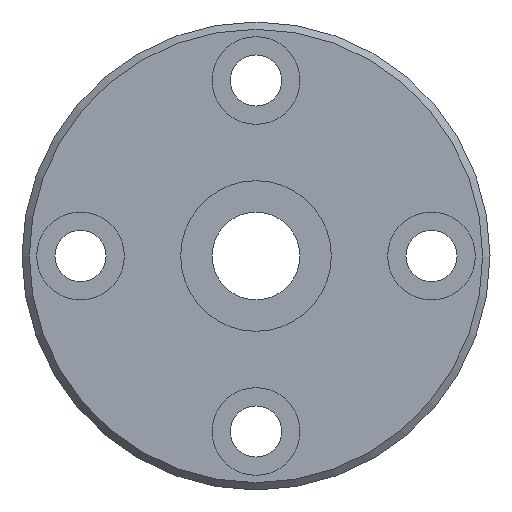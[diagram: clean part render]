
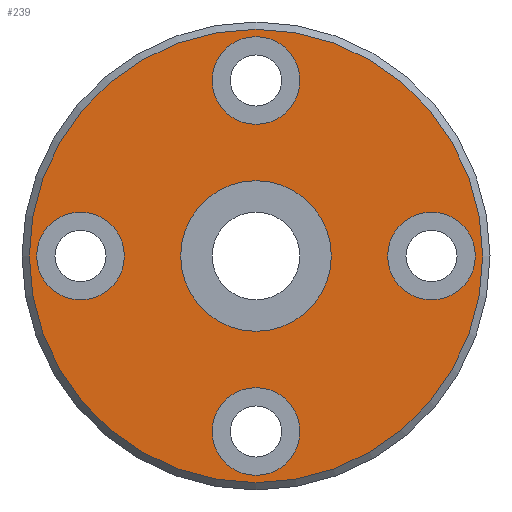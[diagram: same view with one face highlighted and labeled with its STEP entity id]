
A CAD part, left-side view. The second image highlights one B-rep face of the part: STEP entity #239.
In plain terms, the highlighted planar face has unit normal (-1, 0, 0).
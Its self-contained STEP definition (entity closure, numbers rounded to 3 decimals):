
#164=CARTESIAN_POINT('',(0.0,0.,15.5));
#165=VERTEX_POINT('',#164);
#166=CARTESIAN_POINT('',(0.0,0.0,0.0));
#167=DIRECTION('',(1.0,0.0,0.0));
#168=DIRECTION('',(0.0,0.0,-1.0));
#169=AXIS2_PLACEMENT_3D('',#166,#167,#168);
#170=CIRCLE('',#169,15.5);
#171=EDGE_CURVE('',#165,#165,#170,.T.);
#176=CARTESIAN_POINT('',(0.0,0.0,6.325));
#177=DIRECTION('',(-1.0,0.0,0.0));
#178=DIRECTION('',(0.0,0.0,1.0));
#179=AXIS2_PLACEMENT_3D('',#176,#177,#178);
#180=PLANE('',#179);
#181=ORIENTED_EDGE('',*,*,#171,.F.);
#182=EDGE_LOOP('',(#181));
#183=FACE_OUTER_BOUND('',#182,.T.);
#184=CARTESIAN_POINT('',(0.0,0.0,5.15));
#185=VERTEX_POINT('',#184);
#186=CARTESIAN_POINT('',(0.0,0.0,0.0));
#187=DIRECTION('',(-1.0,0.0,0.0));
#188=DIRECTION('',(0.0,0.0,1.0));
#189=AXIS2_PLACEMENT_3D('',#186,#187,#188);
#190=CIRCLE('',#189,5.15);
#191=EDGE_CURVE('',#185,#185,#190,.T.);
#192=ORIENTED_EDGE('',*,*,#191,.F.);
#193=EDGE_LOOP('',(#192));
#194=FACE_BOUND('',#193,.T.);
#195=CARTESIAN_POINT('',(0.0,-9.,0.0));
#196=VERTEX_POINT('',#195);
#197=CARTESIAN_POINT('',(0.0,-12.,0.0));
#198=DIRECTION('',(1.0,0.0,0.0));
#199=DIRECTION('',(0.0,1.0,0.0));
#200=AXIS2_PLACEMENT_3D('',#197,#198,#199);
#201=CIRCLE('',#200,3.);
#202=EDGE_CURVE('',#196,#196,#201,.T.);
#203=ORIENTED_EDGE('',*,*,#202,.T.);
#204=EDGE_LOOP('',(#203));
#205=FACE_BOUND('',#204,.T.);
#206=CARTESIAN_POINT('',(0.0,15.,0.0));
#207=VERTEX_POINT('',#206);
#208=CARTESIAN_POINT('',(0.0,12.,0.0));
#209=DIRECTION('',(1.0,0.0,0.0));
#210=DIRECTION('',(0.0,1.0,0.0));
#211=AXIS2_PLACEMENT_3D('',#208,#209,#210);
#212=CIRCLE('',#211,3.);
#213=EDGE_CURVE('',#207,#207,#212,.T.);
#214=ORIENTED_EDGE('',*,*,#213,.T.);
#215=EDGE_LOOP('',(#214));
#216=FACE_BOUND('',#215,.T.);
#217=CARTESIAN_POINT('',(0.0,3.,12.));
#218=VERTEX_POINT('',#217);
#219=CARTESIAN_POINT('',(0.0,0.0,12.));
#220=DIRECTION('',(1.0,0.0,0.0));
#221=DIRECTION('',(0.0,1.0,0.0));
#222=AXIS2_PLACEMENT_3D('',#219,#220,#221);
#223=CIRCLE('',#222,3.);
#224=EDGE_CURVE('',#218,#218,#223,.T.);
#225=ORIENTED_EDGE('',*,*,#224,.T.);
#226=EDGE_LOOP('',(#225));
#227=FACE_BOUND('',#226,.T.);
#228=CARTESIAN_POINT('',(0.0,3.,-12.));
#229=VERTEX_POINT('',#228);
#230=CARTESIAN_POINT('',(0.0,0.0,-12.));
#231=DIRECTION('',(1.0,0.0,0.0));
#232=DIRECTION('',(0.0,1.0,0.0));
#233=AXIS2_PLACEMENT_3D('',#230,#231,#232);
#234=CIRCLE('',#233,3.);
#235=EDGE_CURVE('',#229,#229,#234,.T.);
#236=ORIENTED_EDGE('',*,*,#235,.T.);
#237=EDGE_LOOP('',(#236));
#238=FACE_BOUND('',#237,.T.);
#239=ADVANCED_FACE('',(#183,#194,#205,#216,#227,#238),#180,.T.);
